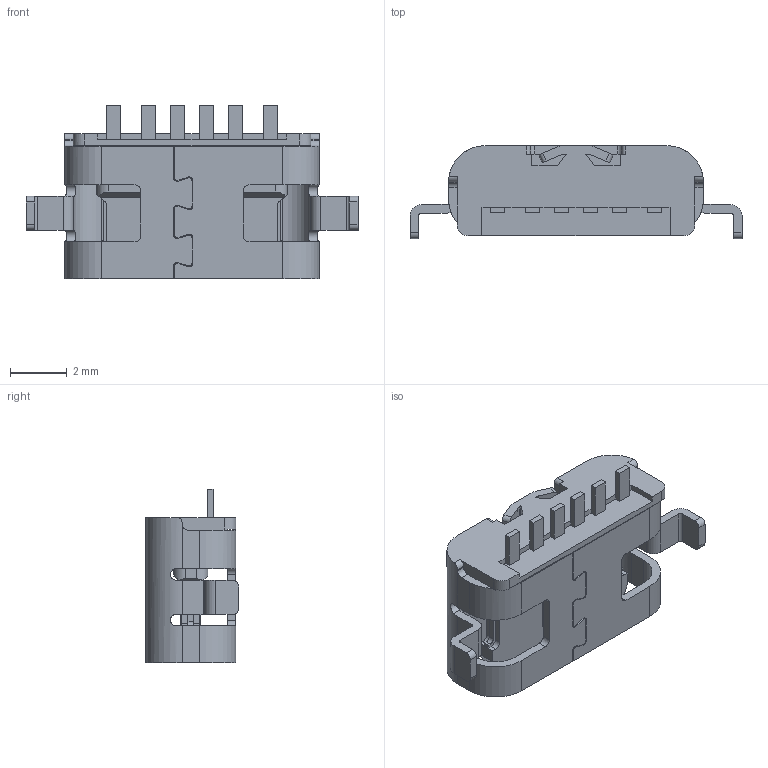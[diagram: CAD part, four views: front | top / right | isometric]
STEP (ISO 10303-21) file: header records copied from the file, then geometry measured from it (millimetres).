
FILE_DESCRIPTION((''),'2;1');
FILE_NAME('ASM0002_ASM','2024-01-28T',('WYH'),(''),'PRO/ENGINEER BY PARAMETRIC TECHNOLOGY CORPORATION, 2013040','PRO/ENGINEER BY PARAMETRIC TECHNOLOGY CORPORATION, 2013040','');
FILE_SCHEMA(('CONFIG_CONTROL_DESIGN'));
Length unit declared in the file: millimetre
Products named in the file (1): ASM0002_ASM
Bounding box: 11.65 x 3.28 x 6.1 mm (x, y, z)
Volume: 68.1 mm3; surface area: 325.6 mm2
Topology: 1 solids, 3 shells, 374 faces, 1064 edges, 698 vertices
Faces by surface type: plane 271, cylinder 103
Entity records: 12236 total; most frequent: CARTESIAN_POINT 2306, ORIENTED_EDGE 2128, DIRECTION 2006, EDGE_CURVE 1064, VECTOR 818, LINE 818, VERTEX_POINT 698, AXIS2_PLACEMENT_3D 594
